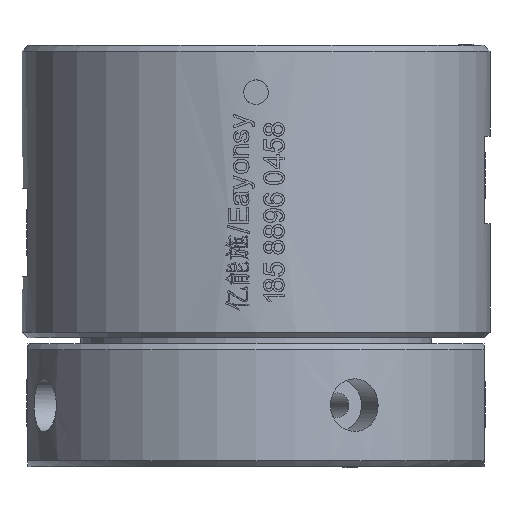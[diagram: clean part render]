
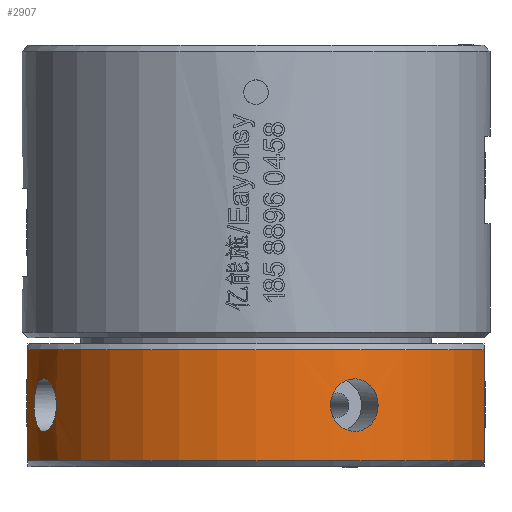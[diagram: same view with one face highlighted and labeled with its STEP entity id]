
A CAD part, front view. The second image highlights one B-rep face of the part: STEP entity #2907.
In plain terms, the highlighted cylindrical face has radius 40 mm (diameter 80 mm), a partial arc.
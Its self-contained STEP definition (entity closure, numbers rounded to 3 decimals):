
#188=CYLINDRICAL_SURFACE('',#27357,40.);
#418=FACE_BOUND('',#8010,.T.);
#419=FACE_BOUND('',#8011,.T.);
#420=FACE_BOUND('',#8012,.T.);
#675=CIRCLE('',#27355,40.);
#676=CIRCLE('',#27356,40.);
#1782=LINE('',#50983,#5202);
#1783=LINE('',#50988,#5203);
#2907=ADVANCED_FACE('',(#418,#419,#420),#188,.T.);
#5202=VECTOR('',#30086,1.);
#5203=VECTOR('',#30089,1.);
#8010=EDGE_LOOP('',(#13561));
#8011=EDGE_LOOP('',(#13562));
#8012=EDGE_LOOP('',(#13563,#13564,#13565,#13566));
#13561=ORIENTED_EDGE('',*,*,#21986,.F.);
#13562=ORIENTED_EDGE('',*,*,#21990,.F.);
#13563=ORIENTED_EDGE('',*,*,#22022,.T.);
#13564=ORIENTED_EDGE('',*,*,#22023,.T.);
#13565=ORIENTED_EDGE('',*,*,#22024,.T.);
#13566=ORIENTED_EDGE('',*,*,#22025,.T.);
#18333=VERTEX_POINT('',#50609);
#18337=VERTEX_POINT('',#50694);
#18369=VERTEX_POINT('',#50984);
#18370=VERTEX_POINT('',#50985);
#18371=VERTEX_POINT('',#50987);
#18372=VERTEX_POINT('',#50989);
#21986=EDGE_CURVE('',#18333,#18333,#25742,.T.);
#21990=EDGE_CURVE('',#18337,#18337,#25744,.T.);
#22022=EDGE_CURVE('',#18369,#18370,#1782,.T.);
#22023=EDGE_CURVE('',#18370,#18371,#675,.T.);
#22024=EDGE_CURVE('',#18371,#18372,#1783,.T.);
#22025=EDGE_CURVE('',#18372,#18369,#676,.T.);
#25742=B_SPLINE_CURVE_WITH_KNOTS('',3,(#50591,#50592,#50593,#50594,#50595,
#50596,#50597,#50598,#50599,#50600,#50601,#50602,#50603,#50604,#50605,#50606,
#50607,#50608),.UNSPECIFIED.,.T.,.F.,(2,2,2,2,2,2,2,2,2,2,2),(-0.125,0.,
0.125,0.25,0.375,0.5,0.625,0.75,0.875,1.,1.125),
 .UNSPECIFIED.);
#25744=B_SPLINE_CURVE_WITH_KNOTS('',3,(#50676,#50677,#50678,#50679,#50680,
#50681,#50682,#50683,#50684,#50685,#50686,#50687,#50688,#50689,#50690,#50691,
#50692,#50693),.UNSPECIFIED.,.T.,.F.,(2,2,2,2,2,2,2,2,2,2,2),(-0.125,0.,
0.125,0.25,0.375,0.5,0.625,0.75,0.875,1.,1.125),
 .UNSPECIFIED.);
#27355=AXIS2_PLACEMENT_3D('',#50986,#30087,#30088);
#27356=AXIS2_PLACEMENT_3D('',#50990,#30090,#30091);
#27357=AXIS2_PLACEMENT_3D('',#50991,#30092,#30093);
#30086=DIRECTION('',(0.,0.,1.));
#30087=DIRECTION('',(0.,0.,-1.));
#30088=DIRECTION('',(1.,0.,0.));
#30089=DIRECTION('',(0.,0.,-1.));
#30090=DIRECTION('',(0.,0.,1.));
#30091=DIRECTION('',(-1.,0.,0.));
#30092=DIRECTION('',(0.,0.,1.));
#30093=DIRECTION('',(1.,0.,0.));
#50591=CARTESIAN_POINT('',(-35.749,-17.983,15.));
#50592=CARTESIAN_POINT('',(-36.755,-15.826,15.));
#50593=CARTESIAN_POINT('',(-37.192,-14.747,14.511));
#50594=CARTESIAN_POINT('',(-37.773,-13.187,12.852));
#50595=CARTESIAN_POINT('',(-37.924,-12.72,11.677));
#50596=CARTESIAN_POINT('',(-37.924,-12.718,9.328));
#50597=CARTESIAN_POINT('',(-37.777,-13.177,8.16));
#50598=CARTESIAN_POINT('',(-37.189,-14.755,6.479));
#50599=CARTESIAN_POINT('',(-36.75,-15.838,6.));
#50600=CARTESIAN_POINT('',(-35.756,-17.968,6.));
#50601=CARTESIAN_POINT('',(-35.205,-19.008,6.486));
#50602=CARTESIAN_POINT('',(-34.383,-20.457,8.144));
#50603=CARTESIAN_POINT('',(-34.121,-20.875,9.306));
#50604=CARTESIAN_POINT('',(-34.12,-20.877,11.686));
#50605=CARTESIAN_POINT('',(-34.381,-20.46,12.849));
#50606=CARTESIAN_POINT('',(-35.202,-19.014,14.51));
#50607=CARTESIAN_POINT('',(-35.749,-17.983,15.));
#50608=CARTESIAN_POINT('',(-36.755,-15.826,15.));
#50609=CARTESIAN_POINT('',(-36.252,-16.905,15.));
#50676=CARTESIAN_POINT('',(17.983,-35.749,15.));
#50677=CARTESIAN_POINT('',(15.826,-36.755,15.));
#50678=CARTESIAN_POINT('',(14.747,-37.192,14.511));
#50679=CARTESIAN_POINT('',(13.187,-37.773,12.852));
#50680=CARTESIAN_POINT('',(12.72,-37.924,11.677));
#50681=CARTESIAN_POINT('',(12.718,-37.924,9.328));
#50682=CARTESIAN_POINT('',(13.177,-37.777,8.16));
#50683=CARTESIAN_POINT('',(14.755,-37.189,6.479));
#50684=CARTESIAN_POINT('',(15.838,-36.75,6.));
#50685=CARTESIAN_POINT('',(17.968,-35.756,6.));
#50686=CARTESIAN_POINT('',(19.008,-35.205,6.486));
#50687=CARTESIAN_POINT('',(20.457,-34.383,8.144));
#50688=CARTESIAN_POINT('',(20.875,-34.121,9.306));
#50689=CARTESIAN_POINT('',(20.877,-34.12,11.686));
#50690=CARTESIAN_POINT('',(20.46,-34.381,12.849));
#50691=CARTESIAN_POINT('',(19.014,-35.202,14.51));
#50692=CARTESIAN_POINT('',(17.983,-35.749,15.));
#50693=CARTESIAN_POINT('',(15.826,-36.755,15.));
#50694=CARTESIAN_POINT('',(16.905,-36.252,15.));
#50983=CARTESIAN_POINT('',(39.,-8.888,0.));
#50984=CARTESIAN_POINT('',(39.,-8.888,1.));
#50985=CARTESIAN_POINT('',(39.,-8.888,20.));
#50986=CARTESIAN_POINT('',(0.,0.,20.));
#50987=CARTESIAN_POINT('',(-39.,-8.888,20.));
#50988=CARTESIAN_POINT('',(-39.,-8.888,0.));
#50989=CARTESIAN_POINT('',(-39.,-8.888,1.));
#50990=CARTESIAN_POINT('',(0.,0.,1.));
#50991=CARTESIAN_POINT('',(0.,0.,0.));
